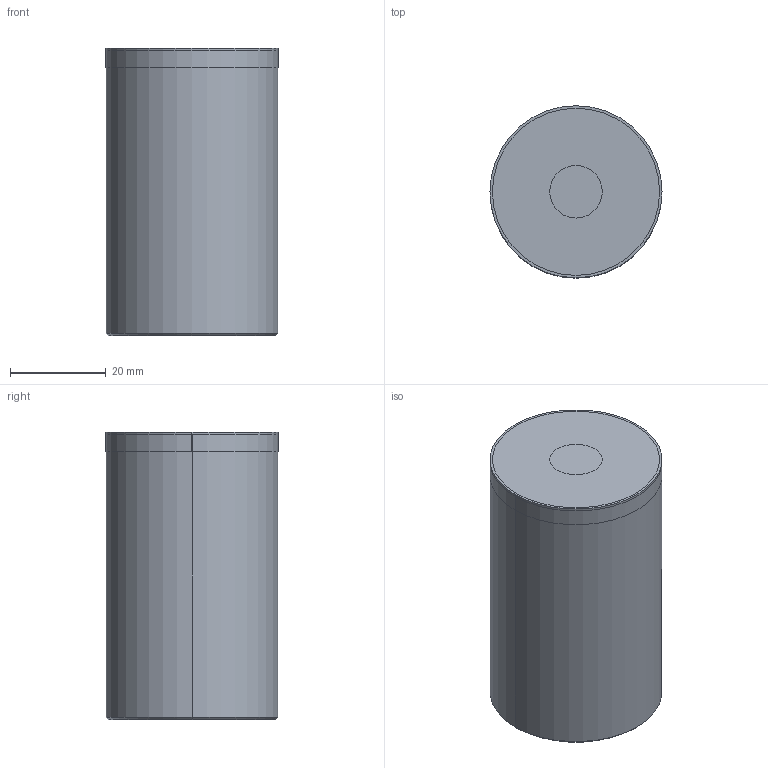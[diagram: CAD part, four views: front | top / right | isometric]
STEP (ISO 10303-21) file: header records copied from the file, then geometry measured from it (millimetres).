
FILE_DESCRIPTION (( 'STEP AP214' ), '1' );
FILE_NAME ('BruyRubio_BRSP_36_X_60.STEP', '2020-01-15T07:47:27', ( '' ), ( '' ), 'SwSTEP 2.0', 'SolidWorks 2017', '' );
FILE_SCHEMA (( 'AUTOMOTIVE_DESIGN' ));
Length unit declared in the file: millimetre
Products named in the file (3): BruyRubio_BRSP_36_X_60; Einbauraum_2034d0; BRSP 36 X 60_9538a3
Assembly tree (2 placements, depth 2):
  BruyRubio_BRSP_36_X_60
    Einbauraum_2034d0
    BRSP 36 X 60_9538a3
Bounding box: 36 x 36 x 60.08 mm (x, y, z)
Volume: 57644.6 mm3; surface area: 13371.7 mm2
Topology: 2 solids, 2 shells, 17 faces, 32 edges, 20 vertices
Faces by surface type: cylinder 8, plane 5, cone 4
Entity records: 735 total; most frequent: DIRECTION 96, CARTESIAN_POINT 74, ORIENTED_EDGE 64, AXIS2_PLACEMENT_3D 42, EDGE_CURVE 32, UNCERTAINTY_MEASURE_WITH_UNIT 24, STYLED_ITEM 21, PRESENTATION_LAYER_ASSIGNMENT 21
